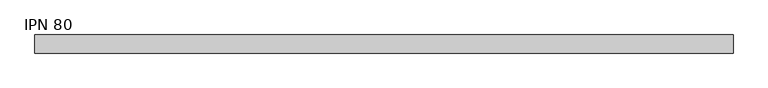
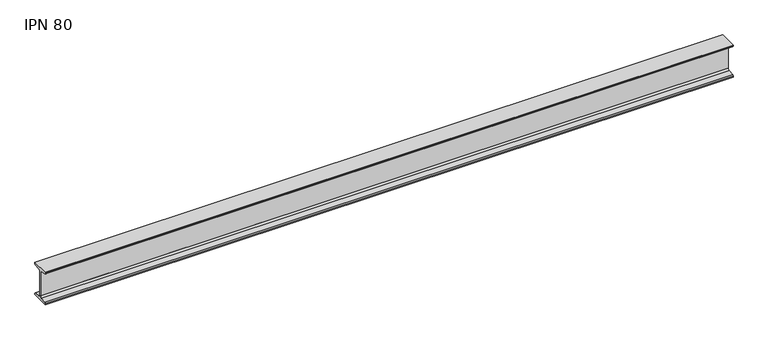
"""IFC4 building model written with IfcOpenShell, lengths in millimetres: beam geometry, IPN - Secciones en I con alas cónicas : IPN 80."""

from ifc_helpers import new_model, si_unit, point, frame, frame_2d, origin, place, context, project, spatial, polyline, circle_curve, trimmed, segment, composite_curve, outline, extrude, source, transform, mapped, element, save


def ipn_80_19f47b9d(model_context):
    return source(origin(), model_context, "Body", "SweptSolid", [
        extrude(outline(composite_curve([segment(polyline([(21.0, 40.0), (21.0, 37.5704306)]), True, "CONTINUOUS"), segment(trimmed(circle_curve(frame_2d((18.7, 37.5704306)), 2.3), [point((21.0, 37.5704306))], [point((19.01889, 35.2926446))], False, "CARTESIAN"), True, "CONTINUOUS"), segment(polyline([(19.01889, 35.2926446), (5.3092734, 33.3732983)]), True, "CONTINUOUS"), segment(trimmed(circle_curve(frame_2d((5.85, 29.5109655)), 3.9), [point((5.3092734, 33.3732983))], [point((1.95, 29.5109655))], True, "CARTESIAN"), True, "CONTINUOUS"), segment(polyline([(1.95, 29.5109655), (1.95, -29.5109655)]), True, "CONTINUOUS"), segment(trimmed(circle_curve(frame_2d((5.85, -29.5109655)), 3.9), [point((1.95, -29.5109655))], [point((5.3092734, -33.3732983))], True, "CARTESIAN"), True, "CONTINUOUS"), segment(polyline([(5.3092734, -33.3732983), (19.01889, -35.2926446)]), True, "CONTINUOUS"), segment(trimmed(circle_curve(frame_2d((18.7, -37.5704306)), 2.3), [point((19.01889, -35.2926446))], [point((21.0, -37.5704306))], False, "CARTESIAN"), True, "CONTINUOUS"), segment(polyline([(21.0, -37.5704306), (21.0, -40.0), (-21.0, -40.0), (-21.0, -37.5704306)]), True, "CONTINUOUS"), segment(trimmed(circle_curve(frame_2d((-18.7, -37.5704306)), 2.3), [point((-21.0, -37.5704306))], [point((-19.01889, -35.2926446))], False, "CARTESIAN"), True, "CONTINUOUS"), segment(polyline([(-19.01889, -35.2926446), (-5.3092734, -33.3732983)]), True, "CONTINUOUS"), segment(trimmed(circle_curve(frame_2d((-5.85, -29.5109655)), 3.9), [point((-5.3092734, -33.3732983))], [point((-1.95, -29.5109655))], True, "CARTESIAN"), True, "CONTINUOUS"), segment(polyline([(-1.95, -29.5109655), (-1.95, 29.5109655)]), True, "CONTINUOUS"), segment(trimmed(circle_curve(frame_2d((-5.85, 29.5109655)), 3.9), [point((-1.95, 29.5109655))], [point((-5.3092734, 33.3732983))], True, "CARTESIAN"), True, "CONTINUOUS"), segment(polyline([(-5.3092734, 33.3732983), (-19.01889, 35.2926446)]), True, "CONTINUOUS"), segment(trimmed(circle_curve(frame_2d((-18.7, 37.5704306)), 2.3), [point((-19.01889, 35.2926446))], [point((-21.0, 37.5704306))], False, "CARTESIAN"), True, "CONTINUOUS"), segment(polyline([(-21.0, 37.5704306), (-21.0, 40.0), (21.0, 40.0)]), True, "CONTINUOUS")], self_intersect=False)), frame((-808.0, 0.0, 0.0), z_axis=(1.0, 0.0, 0.0), x_axis=(0.0, 1.0, 0.0)), (0.0, 0.0, 1.0), 1617.0),
    ])


if __name__ == "__main__":
    model = new_model("IFC4")
    model_context = context("Model", 3, world=origin())
    ifc_project = project(units=[si_unit("LENGTHUNIT", "METRE", prefix="MILLI")], contexts=[model_context])
    site = spatial("IfcSite", under=ifc_project)
    building = spatial("IfcBuilding", under=site)
    placement = place(None, origin())
    ipn_80_shape = ipn_80_19f47b9d(model_context)
    element("IfcBeam", 1, ObjectType="IPN - Secciones en I con alas cónicas : IPN 80", at=placement, inside=building, context=model_context, shape_type="MappedRepresentation", body=[
        mapped(ipn_80_shape, transform((0.0, 0.0, 0.0), x_axis=(1.0, 0.0, 0.0), y_axis=(0.0, 1.0, 0.0), z_axis=(0.0, 0.0, 1.0))),
    ])
    save(model, "model.ifc")
